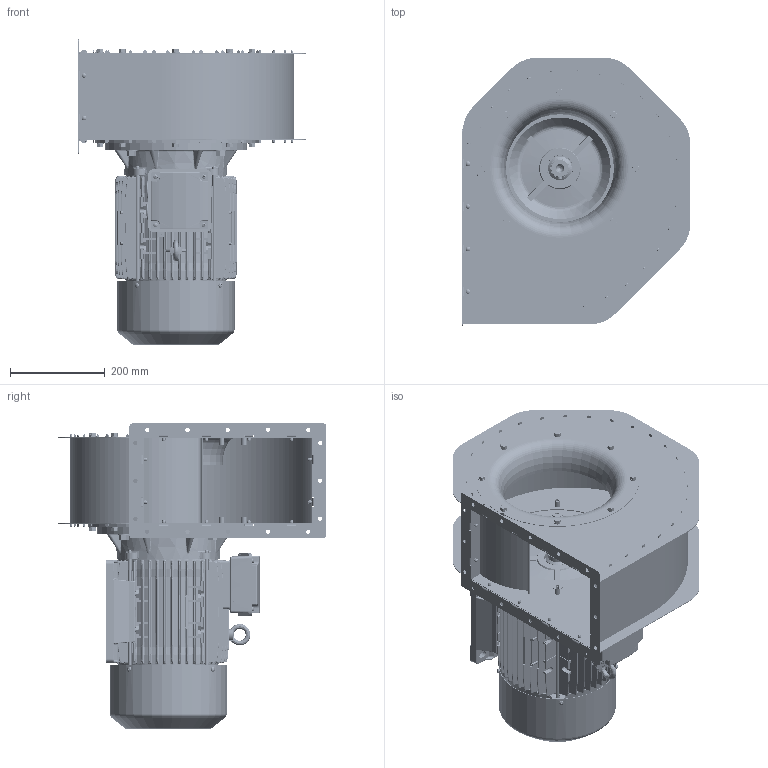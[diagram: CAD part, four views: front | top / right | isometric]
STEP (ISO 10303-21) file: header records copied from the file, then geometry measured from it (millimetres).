
FILE_DESCRIPTION(/* description */ (''),/* implementation_level */ '2;1');
FILE_NAME(/* name */ 'T:\Drawings\Standard Drawings\DATA Web Downloads\3D FILES\HFM-280-116 _ 3D12-0216.stp',/* time_stamp */ '2015-02-18T14:07:13+00:00',/* author */ ('mtinkler'),/* organization */ (''),/* preprocessor_version */ 'ST-DEVELOPER v15.6',/* originating_system */ 'Autodesk Inventor 2015',/* authorisation */ '');
FILE_SCHEMA (('AUTOMOTIVE_DESIGN { 1 0 10303 214 3 1 1 }'));
Products named in the file (1): 3D12-0216
Bounding box: 482 x 566 x 644 mm (x, y, z)
Volume: 1526796.9 mm3; surface area: 3429402.4 mm2
Topology: 80 solids, 138 shells, 8848 faces, 23209 edges, 14597 vertices
Faces by surface type: plane 3792, cylinder 2236, bspline 1479, cone 748, torus 346, sphere 247
Full cylindrical faces by diameter (mm): 2.3 x4, 3 x2, 3.987 x8, 4.134 x4, 4.567 x2, 4.6 x4, 4.8 x12, 5 x36, 5.5 x2, 6 x8, 7 x7, 8 x44, 8.376 x2, 8.5 x20, 9 x17, 10 x6, 10.106 x5, 11 x16, 11.1 x16, 12 x12, 13.019 x1, 13.3 x4, 14 x4, 23.4 x4, 25.4 x4, 27 x2, 32 x2, 37 x4, 37.4 x1, 38 x1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
Entity records: 323982 total; most frequent: CARTESIAN_POINT 108649, ORIENTED_EDGE 44464, DIRECTION 39923, EDGE_CURVE 22236, AXIS2_PLACEMENT_3D 14602, VERTEX_POINT 14348, LINE 10719, VECTOR 10719
